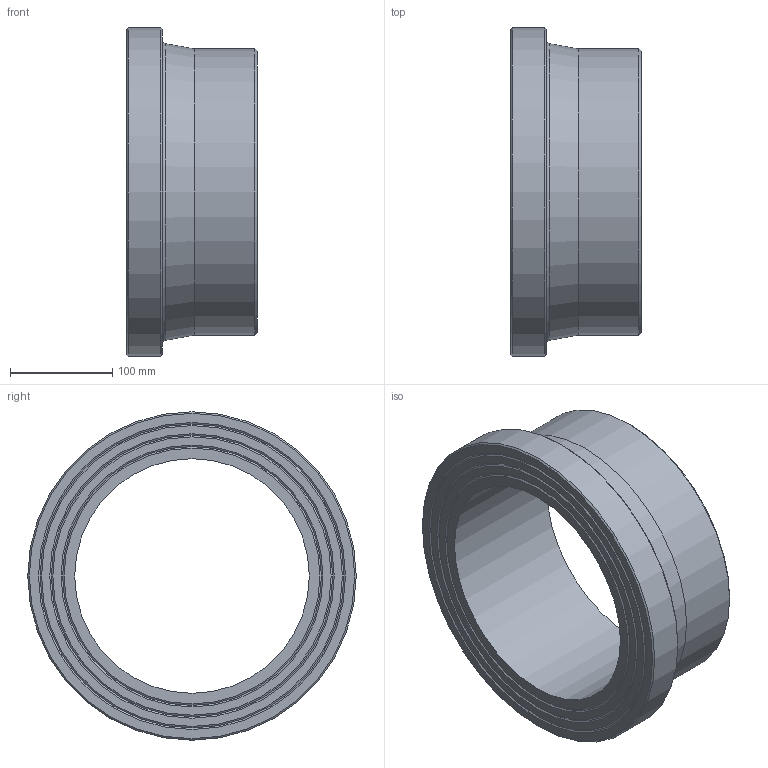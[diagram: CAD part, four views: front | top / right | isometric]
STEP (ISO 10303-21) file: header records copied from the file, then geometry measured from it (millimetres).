
FILE_DESCRIPTION(/* description */ ('Unknown'),/* implementation_level */ '2;1');
FILE_NAME(/* name */ 'CCP280C',/* time_stamp */ '2022-04-04T15:11:26+02:00',/* author */ ('Unknown'),/* organization */ ('Unknown'),/* preprocessor_version */ 'ST-DEVELOPER v18.1',/* originating_system */ 'Solid Edge',/* authorisation */ 'Unknown');
FILE_SCHEMA (('AUTOMOTIVE_DESIGN {1 0 10303 214 3 1 1}'));
Length unit declared in the file: millimetre
Products named in the file (1): CCP280C
Bounding box: 128 x 321 x 321 mm (x, y, z)
Volume: 3346591.4 mm3; surface area: 282414.2 mm2
Topology: 1 solids, 1 shells, 20 faces, 35 edges, 21 vertices
Faces by surface type: cone 10, plane 6, cylinder 3, torus 1
Full cylindrical faces by diameter (mm): 229.2 x1, 280 x1, 321 x1
Entity records: 438 total; most frequent: DIRECTION 82, CARTESIAN_POINT 61, AXIS2_PLACEMENT_3D 41, ORIENTED_EDGE 40, EDGE_LOOP 40, FACE_BOUND 40, EDGE_CURVE 20, VERTEX_POINT 20
